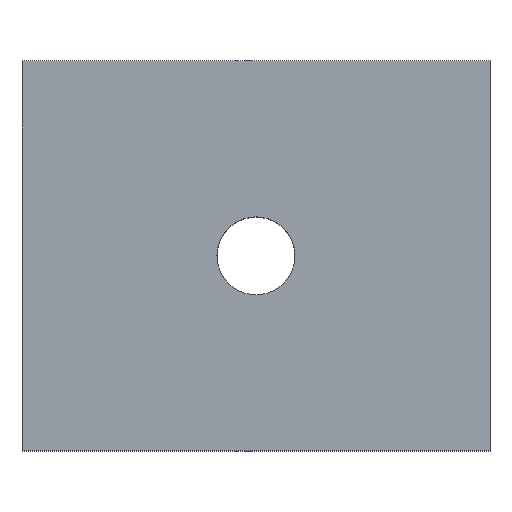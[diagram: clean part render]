
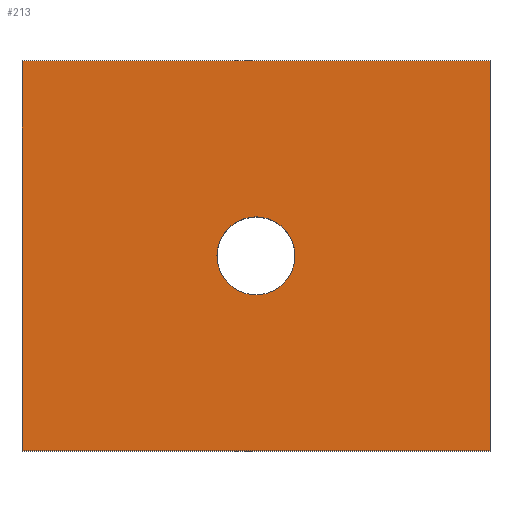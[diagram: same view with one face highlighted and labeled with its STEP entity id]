
A CAD part, top view. The second image highlights one B-rep face of the part: STEP entity #213.
In plain terms, the highlighted planar face has unit normal (0, 0, 1).
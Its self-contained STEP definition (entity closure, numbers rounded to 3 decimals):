
#24 = VERTEX_POINT('',#25);
#25 = CARTESIAN_POINT('',(0.,0.,5.));
#32 = PLANE('',#33);
#33 = AXIS2_PLACEMENT_3D('',#34,#35,#36);
#34 = CARTESIAN_POINT('',(0.,0.,0.));
#35 = DIRECTION('',(1.,0.,-0.));
#36 = DIRECTION('',(0.,0.,1.));
#44 = PLANE('',#45);
#45 = AXIS2_PLACEMENT_3D('',#46,#47,#48);
#46 = CARTESIAN_POINT('',(0.,0.,0.));
#47 = DIRECTION('',(-0.,1.,0.));
#48 = DIRECTION('',(0.,0.,1.));
#85 = VERTEX_POINT('',#86);
#86 = CARTESIAN_POINT('',(0.,10.,5.));
#100 = PLANE('',#101);
#101 = AXIS2_PLACEMENT_3D('',#102,#103,#104);
#102 = CARTESIAN_POINT('',(0.,10.,0.));
#103 = DIRECTION('',(-0.,1.,0.));
#104 = DIRECTION('',(0.,0.,1.));
#112 = EDGE_CURVE('',#24,#85,#113,.T.);
#113 = SURFACE_CURVE('',#114,(#118,#125),.PCURVE_S1.);
#114 = LINE('',#115,#116);
#115 = CARTESIAN_POINT('',(0.,0.,5.));
#116 = VECTOR('',#117,1.);
#117 = DIRECTION('',(-0.,1.,0.));
#118 = PCURVE('',#32,#119);
#119 = DEFINITIONAL_REPRESENTATION('',(#120),#124);
#120 = LINE('',#121,#122);
#121 = CARTESIAN_POINT('',(5.,0.));
#122 = VECTOR('',#123,1.);
#123 = DIRECTION('',(0.,-1.));
#124 = ( GEOMETRIC_REPRESENTATION_CONTEXT(2) 
PARAMETRIC_REPRESENTATION_CONTEXT() REPRESENTATION_CONTEXT('2D SPACE',''
  ) );
#125 = PCURVE('',#126,#131);
#126 = PLANE('',#127);
#127 = AXIS2_PLACEMENT_3D('',#128,#129,#130);
#128 = CARTESIAN_POINT('',(0.,0.,5.));
#129 = DIRECTION('',(0.,0.,1.));
#130 = DIRECTION('',(1.,0.,-0.));
#131 = DEFINITIONAL_REPRESENTATION('',(#132),#136);
#132 = LINE('',#133,#134);
#133 = CARTESIAN_POINT('',(0.,0.));
#134 = VECTOR('',#135,1.);
#135 = DIRECTION('',(0.,1.));
#136 = ( GEOMETRIC_REPRESENTATION_CONTEXT(2) 
PARAMETRIC_REPRESENTATION_CONTEXT() REPRESENTATION_CONTEXT('2D SPACE',''
  ) );
#165 = EDGE_CURVE('',#24,#166,#168,.T.);
#166 = VERTEX_POINT('',#167);
#167 = CARTESIAN_POINT('',(12.,0.,5.));
#168 = SURFACE_CURVE('',#169,(#173,#180),.PCURVE_S1.);
#169 = LINE('',#170,#171);
#170 = CARTESIAN_POINT('',(0.,0.,5.));
#171 = VECTOR('',#172,1.);
#172 = DIRECTION('',(1.,0.,-0.));
#173 = PCURVE('',#44,#174);
#174 = DEFINITIONAL_REPRESENTATION('',(#175),#179);
#175 = LINE('',#176,#177);
#176 = CARTESIAN_POINT('',(5.,0.));
#177 = VECTOR('',#178,1.);
#178 = DIRECTION('',(0.,1.));
#179 = ( GEOMETRIC_REPRESENTATION_CONTEXT(2) 
PARAMETRIC_REPRESENTATION_CONTEXT() REPRESENTATION_CONTEXT('2D SPACE',''
  ) );
#180 = PCURVE('',#126,#181);
#181 = DEFINITIONAL_REPRESENTATION('',(#182),#186);
#182 = LINE('',#183,#184);
#183 = CARTESIAN_POINT('',(0.,0.));
#184 = VECTOR('',#185,1.);
#185 = DIRECTION('',(1.,0.));
#186 = ( GEOMETRIC_REPRESENTATION_CONTEXT(2) 
PARAMETRIC_REPRESENTATION_CONTEXT() REPRESENTATION_CONTEXT('2D SPACE',''
  ) );
#202 = PLANE('',#203);
#203 = AXIS2_PLACEMENT_3D('',#204,#205,#206);
#204 = CARTESIAN_POINT('',(12.,0.,0.));
#205 = DIRECTION('',(1.,0.,-0.));
#206 = DIRECTION('',(0.,0.,1.));
#213 = ADVANCED_FACE('',(#214,#262),#126,.T.);
#214 = FACE_BOUND('',#215,.T.);
#215 = EDGE_LOOP('',(#216,#217,#218,#241));
#216 = ORIENTED_EDGE('',*,*,#112,.F.);
#217 = ORIENTED_EDGE('',*,*,#165,.T.);
#218 = ORIENTED_EDGE('',*,*,#219,.T.);
#219 = EDGE_CURVE('',#166,#220,#222,.T.);
#220 = VERTEX_POINT('',#221);
#221 = CARTESIAN_POINT('',(12.,10.,5.));
#222 = SURFACE_CURVE('',#223,(#227,#234),.PCURVE_S1.);
#223 = LINE('',#224,#225);
#224 = CARTESIAN_POINT('',(12.,0.,5.));
#225 = VECTOR('',#226,1.);
#226 = DIRECTION('',(-0.,1.,0.));
#227 = PCURVE('',#126,#228);
#228 = DEFINITIONAL_REPRESENTATION('',(#229),#233);
#229 = LINE('',#230,#231);
#230 = CARTESIAN_POINT('',(12.,0.));
#231 = VECTOR('',#232,1.);
#232 = DIRECTION('',(0.,1.));
#233 = ( GEOMETRIC_REPRESENTATION_CONTEXT(2) 
PARAMETRIC_REPRESENTATION_CONTEXT() REPRESENTATION_CONTEXT('2D SPACE',''
  ) );
#234 = PCURVE('',#202,#235);
#235 = DEFINITIONAL_REPRESENTATION('',(#236),#240);
#236 = LINE('',#237,#238);
#237 = CARTESIAN_POINT('',(5.,0.));
#238 = VECTOR('',#239,1.);
#239 = DIRECTION('',(0.,-1.));
#240 = ( GEOMETRIC_REPRESENTATION_CONTEXT(2) 
PARAMETRIC_REPRESENTATION_CONTEXT() REPRESENTATION_CONTEXT('2D SPACE',''
  ) );
#241 = ORIENTED_EDGE('',*,*,#242,.F.);
#242 = EDGE_CURVE('',#85,#220,#243,.T.);
#243 = SURFACE_CURVE('',#244,(#248,#255),.PCURVE_S1.);
#244 = LINE('',#245,#246);
#245 = CARTESIAN_POINT('',(0.,10.,5.));
#246 = VECTOR('',#247,1.);
#247 = DIRECTION('',(1.,0.,-0.));
#248 = PCURVE('',#126,#249);
#249 = DEFINITIONAL_REPRESENTATION('',(#250),#254);
#250 = LINE('',#251,#252);
#251 = CARTESIAN_POINT('',(0.,10.));
#252 = VECTOR('',#253,1.);
#253 = DIRECTION('',(1.,0.));
#254 = ( GEOMETRIC_REPRESENTATION_CONTEXT(2) 
PARAMETRIC_REPRESENTATION_CONTEXT() REPRESENTATION_CONTEXT('2D SPACE',''
  ) );
#255 = PCURVE('',#100,#256);
#256 = DEFINITIONAL_REPRESENTATION('',(#257),#261);
#257 = LINE('',#258,#259);
#258 = CARTESIAN_POINT('',(5.,0.));
#259 = VECTOR('',#260,1.);
#260 = DIRECTION('',(0.,1.));
#261 = ( GEOMETRIC_REPRESENTATION_CONTEXT(2) 
PARAMETRIC_REPRESENTATION_CONTEXT() REPRESENTATION_CONTEXT('2D SPACE',''
  ) );
#262 = FACE_BOUND('',#263,.T.);
#263 = EDGE_LOOP('',(#264));
#264 = ORIENTED_EDGE('',*,*,#265,.F.);
#265 = EDGE_CURVE('',#266,#266,#268,.T.);
#266 = VERTEX_POINT('',#267);
#267 = CARTESIAN_POINT('',(7.,5.,5.));
#268 = SURFACE_CURVE('',#269,(#274,#281),.PCURVE_S1.);
#269 = CIRCLE('',#270,1.);
#270 = AXIS2_PLACEMENT_3D('',#271,#272,#273);
#271 = CARTESIAN_POINT('',(6.,5.,5.));
#272 = DIRECTION('',(0.,0.,1.));
#273 = DIRECTION('',(1.,0.,-0.));
#274 = PCURVE('',#126,#275);
#275 = DEFINITIONAL_REPRESENTATION('',(#276),#280);
#276 = CIRCLE('',#277,1.);
#277 = AXIS2_PLACEMENT_2D('',#278,#279);
#278 = CARTESIAN_POINT('',(6.,5.));
#279 = DIRECTION('',(1.,0.));
#280 = ( GEOMETRIC_REPRESENTATION_CONTEXT(2) 
PARAMETRIC_REPRESENTATION_CONTEXT() REPRESENTATION_CONTEXT('2D SPACE',''
  ) );
#281 = PCURVE('',#282,#287);
#282 = CYLINDRICAL_SURFACE('',#283,1.);
#283 = AXIS2_PLACEMENT_3D('',#284,#285,#286);
#284 = CARTESIAN_POINT('',(6.,5.,-2.));
#285 = DIRECTION('',(0.,0.,1.));
#286 = DIRECTION('',(1.,0.,-0.));
#287 = DEFINITIONAL_REPRESENTATION('',(#288),#292);
#288 = LINE('',#289,#290);
#289 = CARTESIAN_POINT('',(0.,7.));
#290 = VECTOR('',#291,1.);
#291 = DIRECTION('',(1.,0.));
#292 = ( GEOMETRIC_REPRESENTATION_CONTEXT(2) 
PARAMETRIC_REPRESENTATION_CONTEXT() REPRESENTATION_CONTEXT('2D SPACE',''
  ) );
